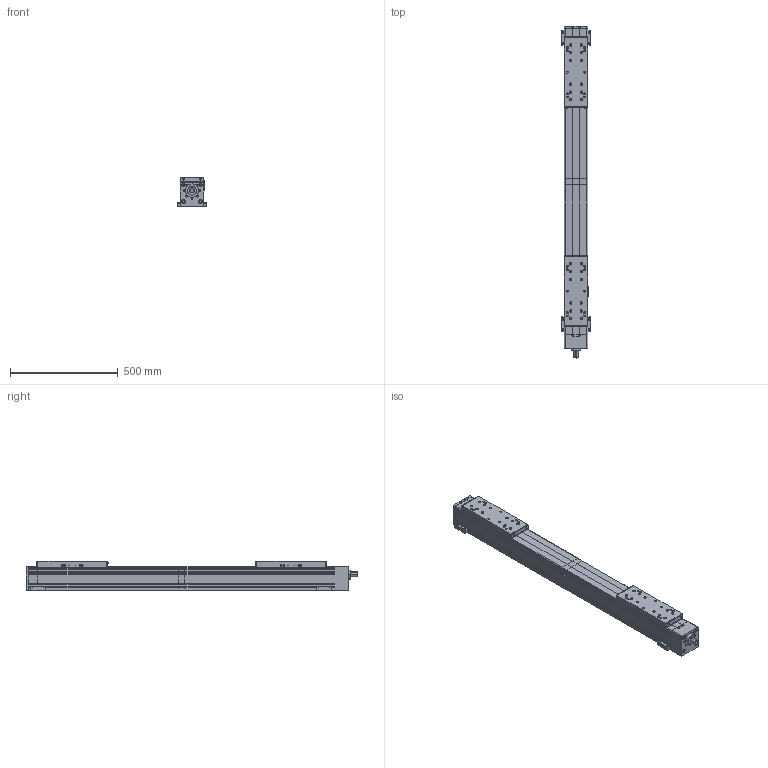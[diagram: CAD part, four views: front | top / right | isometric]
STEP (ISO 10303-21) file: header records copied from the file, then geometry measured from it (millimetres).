
FILE_DESCRIPTION(('Creo Elements/Direct Modeling STEP Export'),'2;1');
FILE_NAME('B110-SSS-RL-320-EN.stp','2020-02-24T15:18:55',(''),(''),'Creo Elements/Direct Modeling STEP processor for AP214 (Solid Model)','Creo Elements/Direct Modeling 20.1C 13-Oct-2019 (C) Parametric Technology GmbH','');
FILE_SCHEMA(('AUTOMOTIVE_DESIGN { 1 0 10303 214 1 1 1 1 }'));
Length unit declared in the file: millimetre
Products named in the file (27): Beta110-SRS-SSS-Grundkoerper-Teil2; Beta110-SRS-SSS-Schlitten; Abstreiferbuerste_10588; Schraube_M_4x8_ISO_7380_va_10252.02; Abstreifer_kpl.01; Abstreifer_kpl.02; Beta-110-Schlitten_kpl.02; Beta110-SRS-SSS-Grundkoerper-Teil1; BL2; BL2.1; Befestigungsleistenpaar.1; Befestigungsleistenpaar; Befestigungsleisten; 10560__NS5; 10560__NS5.02; Nutensteinpaar; Nutensteine; Endschalter_induktiv; Endschalter_induktiv.1; Endschalter_induktiv.2; Schaltfahne_10406; Linsenschraube_M4x8_EN_ISO_7380_1_10.9_vz_10243.01; Schaltfahne_10406_kpl; Endschalter-induktiv; B110-SSS-RL-320-EN
Assembly tree (30 placements, depth 5):
  B110-SSS-RL-320-EN
    Endschalter-induktiv
      Schaltfahne_10406_kpl
        Linsenschraube_M4x8_EN_ISO_7380_1_10.9_vz_10243.01  x2
        Schaltfahne_10406
      Endschalter_induktiv.2
      Endschalter_induktiv.1
      Endschalter_induktiv
    Nutensteine
      Nutensteinpaar
        10560__NS5.02
        10560__NS5
    Befestigungsleisten
      Befestigungsleistenpaar
        BL2.1
        BL2
      Befestigungsleistenpaar.1
        BL2.1
        BL2
    Beta110-SRS-SSS-Grundkoerper-Teil1
    Beta-110-Schlitten_kpl.02  x2
      Abstreifer_kpl.02
        Abstreifer_kpl.01
          Schraube_M_4x8_ISO_7380_va_10252.02  x2
          Abstreiferbuerste_10588
      Beta110-SRS-SSS-Schlitten
    Beta110-SRS-SSS-Grundkoerper-Teil2
Bounding box: 136 x 1541 x 135 mm (x, y, z)
Volume: 19017419 mm3; surface area: 1277288.4 mm2
Topology: 28 solids, 28 shells, 2309 faces, 5300 edges, 3211 vertices
Faces by surface type: plane 1131, cylinder 764, cone 310, torus 84, sphere 20
Entity records: 53667 total; most frequent: CARTESIAN_POINT 16452, ORIENTED_EDGE 7848, DIRECTION 6822, EDGE_CURVE 3924, VERTEX_POINT 2441, AXIS2_PLACEMENT_3D 2343, VECTOR 2136, LINE 2136
